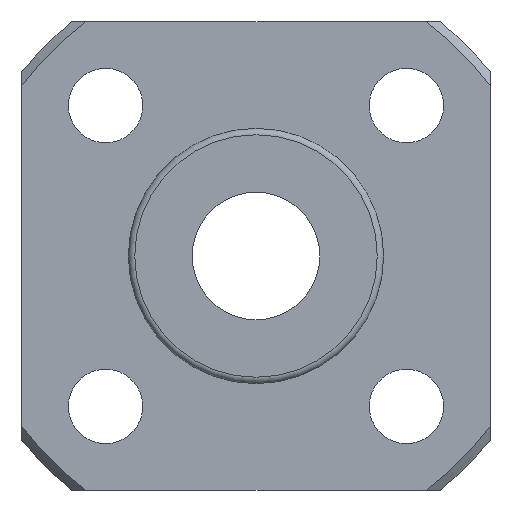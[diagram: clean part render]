
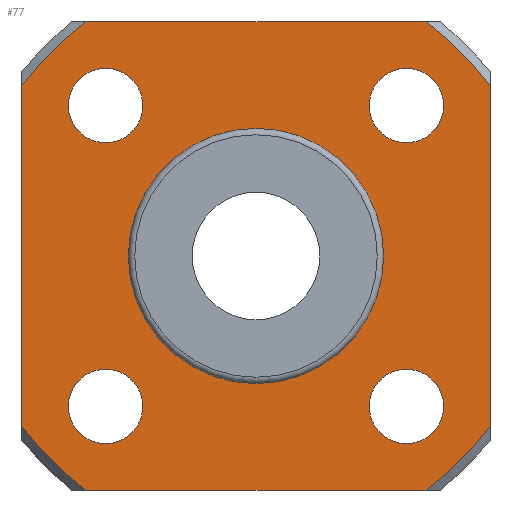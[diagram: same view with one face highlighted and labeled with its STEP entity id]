
A CAD part, left-side view. The second image highlights one B-rep face of the part: STEP entity #77.
In plain terms, the highlighted planar face has unit normal (-1, 0, 0).
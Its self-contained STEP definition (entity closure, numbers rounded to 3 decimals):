
#77=ADVANCED_FACE('',(#118,#119,#120,#121,#122,#123),#124,.T.);
#118=FACE_BOUND('',#218,.T.);
#119=FACE_BOUND('',#219,.T.);
#120=FACE_OUTER_BOUND('',#220,.T.);
#121=FACE_BOUND('',#221,.T.);
#122=FACE_BOUND('',#222,.T.);
#123=FACE_BOUND('',#223,.T.);
#124=PLANE('',#224);
#218=EDGE_LOOP('',(#322));
#219=EDGE_LOOP('',(#323));
#220=EDGE_LOOP('',(#324,#325,#326,#327,#328,#329,#330,#331));
#221=EDGE_LOOP('',(#332));
#222=EDGE_LOOP('',(#333));
#223=EDGE_LOOP('',(#334));
#224=AXIS2_PLACEMENT_3D('',#335,#336,#337);
#322=ORIENTED_EDGE('',*,*,#565,.T.);
#323=ORIENTED_EDGE('',*,*,#566,.T.);
#324=ORIENTED_EDGE('',*,*,#567,.T.);
#325=ORIENTED_EDGE('',*,*,#568,.F.);
#326=ORIENTED_EDGE('',*,*,#569,.T.);
#327=ORIENTED_EDGE('',*,*,#570,.F.);
#328=ORIENTED_EDGE('',*,*,#571,.T.);
#329=ORIENTED_EDGE('',*,*,#572,.F.);
#330=ORIENTED_EDGE('',*,*,#573,.T.);
#331=ORIENTED_EDGE('',*,*,#574,.F.);
#332=ORIENTED_EDGE('',*,*,#575,.T.);
#333=ORIENTED_EDGE('',*,*,#576,.T.);
#334=ORIENTED_EDGE('',*,*,#577,.T.);
#335=CARTESIAN_POINT('',(-5.0,9.675,0.));
#336=DIRECTION('',(-1.0,0.0,0.));
#337=DIRECTION('',(0.,0.0,1.0));
#565=EDGE_CURVE('',#639,#639,#640,.F.);
#566=EDGE_CURVE('',#641,#641,#642,.F.);
#567=EDGE_CURVE('',#643,#644,#645,.T.);
#568=EDGE_CURVE('',#646,#644,#647,.T.);
#569=EDGE_CURVE('',#646,#648,#649,.T.);
#570=EDGE_CURVE('',#650,#648,#651,.T.);
#571=EDGE_CURVE('',#650,#652,#653,.T.);
#572=EDGE_CURVE('',#654,#652,#655,.T.);
#573=EDGE_CURVE('',#654,#656,#657,.T.);
#574=EDGE_CURVE('',#643,#656,#658,.T.);
#575=EDGE_CURVE('',#659,#659,#660,.T.);
#576=EDGE_CURVE('',#661,#661,#662,.F.);
#577=EDGE_CURVE('',#663,#663,#664,.F.);
#639=VERTEX_POINT('',#765);
#640=CIRCLE('',#766,1.75);
#641=VERTEX_POINT('',#767);
#642=CIRCLE('',#768,1.75);
#643=VERTEX_POINT('',#769);
#644=VERTEX_POINT('',#770);
#645=LINE('',#771,#772);
#646=VERTEX_POINT('',#773);
#647=CIRCLE('',#774,13.6);
#648=VERTEX_POINT('',#775);
#649=LINE('',#776,#777);
#650=VERTEX_POINT('',#778);
#651=CIRCLE('',#779,13.6);
#652=VERTEX_POINT('',#780);
#653=LINE('',#781,#782);
#654=VERTEX_POINT('',#783);
#655=CIRCLE('',#784,13.6);
#656=VERTEX_POINT('',#785);
#657=LINE('',#786,#787);
#658=CIRCLE('',#788,13.6);
#659=VERTEX_POINT('',#789);
#660=CIRCLE('',#790,5.75);
#661=VERTEX_POINT('',#791);
#662=CIRCLE('',#792,1.75);
#663=VERTEX_POINT('',#793);
#664=CIRCLE('',#794,1.75);
#765=CARTESIAN_POINT('',(-5.0,-7.071,-5.321));
#766=AXIS2_PLACEMENT_3D('',#1054,#1055,#1056);
#767=CARTESIAN_POINT('',(-5.0,7.071,8.821));
#768=AXIS2_PLACEMENT_3D('',#1057,#1058,#1059);
#769=CARTESIAN_POINT('',(-5.0,-11.0,-7.997));
#770=CARTESIAN_POINT('',(-5.0,-11.0,7.997));
#771=CARTESIAN_POINT('',(-5.0,-11.0,6.179));
#772=VECTOR('',#1060,1.0);
#773=CARTESIAN_POINT('',(-5.0,-7.997,11.0));
#774=AXIS2_PLACEMENT_3D('',#1061,#1062,#1063);
#775=CARTESIAN_POINT('',(-5.0,7.997,11.0));
#776=CARTESIAN_POINT('',(-5.0,10.338,11.0));
#777=VECTOR('',#1064,1.0);
#778=CARTESIAN_POINT('',(-5.0,11.0,7.997));
#779=AXIS2_PLACEMENT_3D('',#1065,#1066,#1067);
#780=CARTESIAN_POINT('',(-5.0,11.0,-7.997));
#781=CARTESIAN_POINT('',(-5.0,11.0,6.179));
#782=VECTOR('',#1068,1.0);
#783=CARTESIAN_POINT('',(-5.0,7.997,-11.0));
#784=AXIS2_PLACEMENT_3D('',#1069,#1070,#1071);
#785=CARTESIAN_POINT('',(-5.0,-7.997,-11.0));
#786=CARTESIAN_POINT('',(-5.0,10.338,-11.0));
#787=VECTOR('',#1072,1.0);
#788=AXIS2_PLACEMENT_3D('',#1073,#1074,#1075);
#789=CARTESIAN_POINT('',(-5.0,5.75,0.));
#790=AXIS2_PLACEMENT_3D('',#1076,#1077,#1078);
#791=CARTESIAN_POINT('',(-5.0,-7.071,8.821));
#792=AXIS2_PLACEMENT_3D('',#1079,#1080,#1081);
#793=CARTESIAN_POINT('',(-5.0,7.071,-5.321));
#794=AXIS2_PLACEMENT_3D('',#1082,#1083,#1084);
#1054=CARTESIAN_POINT('',(-5.0,-7.071,-7.071));
#1055=DIRECTION('',(-1.0,0.0,0.));
#1056=DIRECTION('',(0.,0.0,1.0));
#1057=CARTESIAN_POINT('',(-5.0,7.071,7.071));
#1058=DIRECTION('',(-1.0,0.0,0.));
#1059=DIRECTION('',(0.,0.0,1.0));
#1060=DIRECTION('',(0.,0.0,1.0));
#1061=CARTESIAN_POINT('',(-5.0,0.0,0.));
#1062=DIRECTION('',(1.0,0.0,0.));
#1063=DIRECTION('',(0.0,1.0,0.0));
#1064=DIRECTION('',(0.0,1.0,0.0));
#1065=CARTESIAN_POINT('',(-5.0,0.0,0.));
#1066=DIRECTION('',(1.0,0.0,0.));
#1067=DIRECTION('',(0.0,1.0,0.0));
#1068=DIRECTION('',(0.,0.0,-1.0));
#1069=CARTESIAN_POINT('',(-5.0,0.0,0.));
#1070=DIRECTION('',(1.0,0.0,0.));
#1071=DIRECTION('',(0.0,1.0,0.0));
#1072=DIRECTION('',(0.0,-1.0,0.0));
#1073=CARTESIAN_POINT('',(-5.0,0.0,0.));
#1074=DIRECTION('',(1.0,0.0,0.));
#1075=DIRECTION('',(0.0,1.0,0.0));
#1076=CARTESIAN_POINT('',(-5.0,0.0,0.));
#1077=DIRECTION('',(1.0,0.0,0.));
#1078=DIRECTION('',(0.0,1.0,0.0));
#1079=CARTESIAN_POINT('',(-5.0,-7.071,7.071));
#1080=DIRECTION('',(-1.0,0.0,0.));
#1081=DIRECTION('',(0.,0.0,1.0));
#1082=CARTESIAN_POINT('',(-5.0,7.071,-7.071));
#1083=DIRECTION('',(-1.0,0.0,0.));
#1084=DIRECTION('',(0.,0.0,1.0));
